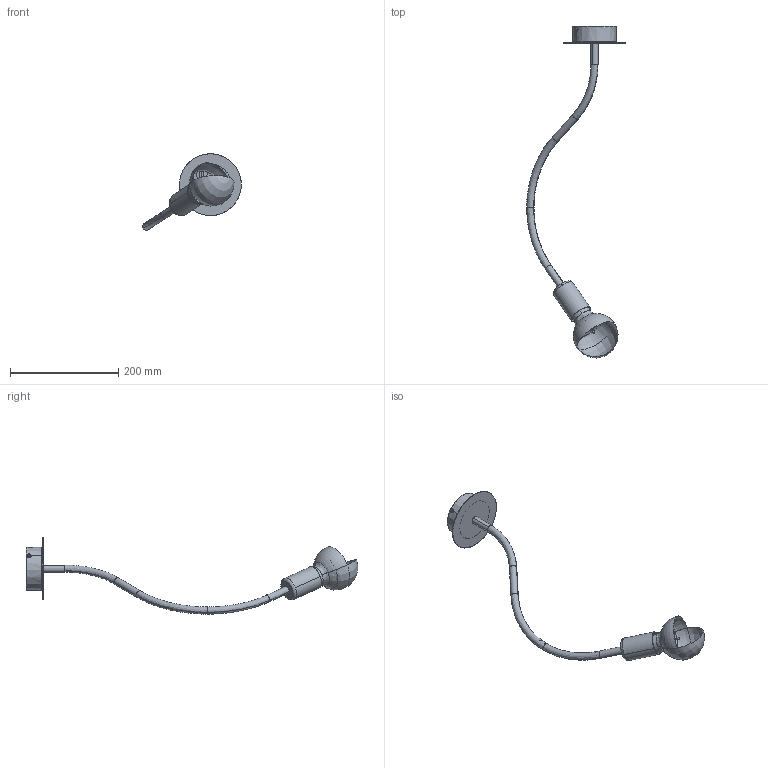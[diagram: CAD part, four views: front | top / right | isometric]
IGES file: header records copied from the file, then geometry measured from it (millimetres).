
Start section: SolidWorks IGES file using analytic representation for surfaces
Global section: file name: E:\3D lampy\Flex\Flex_9770,9775.IGS; native system: SolidWorks 2016; preprocessor: SolidWorks 2016; author: Asia; date: 170622.152945; units: millimetre
Bounding box: 181.94 x 612.81 x 140.96 mm (x, y, z)
Surface area: 154458.4 mm2 (no closed solid volume)
Topology: 0 solids, 0 shells, 306 faces, 4484 edges, 4483 vertices
Faces by surface type: revolution 193, bspline 113
